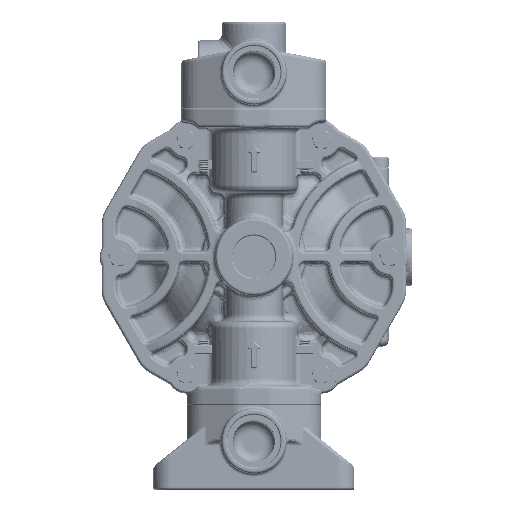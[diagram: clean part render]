
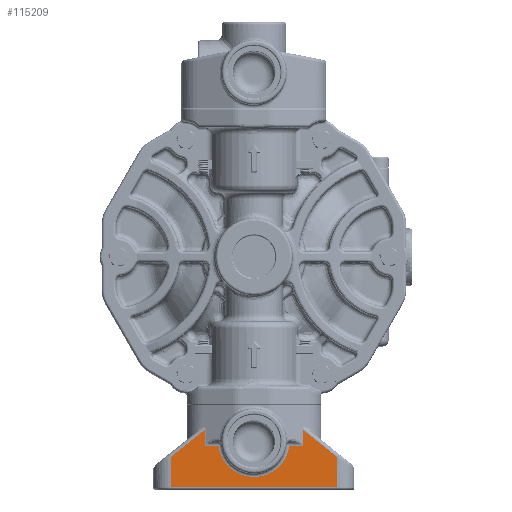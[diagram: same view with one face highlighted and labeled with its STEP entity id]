
A CAD part, top view. The second image highlights one B-rep face of the part: STEP entity #115209.
In plain terms, the highlighted planar face has unit normal (0, 0, 1).
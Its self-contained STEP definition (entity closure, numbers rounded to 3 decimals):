
#91 = CARTESIAN_POINT ( 'NONE',  ( -28.157, -105.5, 60.24 ) ) ;
#327 = VECTOR ( 'NONE', #42722, 1000. ) ;
#8495 = EDGE_LOOP ( 'NONE', ( #81012, #91737, #312683, #146596, #325773, #16565, #406281, #127624, #304091, #134650 ) ) ;
#9005 = DIRECTION ( 'NONE',  ( -1., 0., 0. ) ) ;
#13810 = EDGE_CURVE ( 'NONE', #327331, #208451, #221711, .T. ) ;
#16565 = ORIENTED_EDGE ( 'NONE', *, *, #400352, .T. ) ;
#33902 = CARTESIAN_POINT ( 'NONE',  ( 20.347, -108., 60.24 ) ) ;
#38365 = CARTESIAN_POINT ( 'NONE',  ( 47.5, -120., 60.24 ) ) ;
#39279 = VERTEX_POINT ( 'NONE', #378597 ) ;
#42722 = DIRECTION ( 'NONE',  ( 0., -1., 0. ) ) ;
#46762 = EDGE_CURVE ( 'NONE', #39279, #100320, #369145, .T. ) ;
#50657 = CARTESIAN_POINT ( 'NONE',  ( 28.157, -99.022, 60.24 ) ) ;
#56229 = AXIS2_PLACEMENT_3D ( 'NONE', #192403, #350012, #162316 ) ;
#69424 = CARTESIAN_POINT ( 'NONE',  ( 47.5, -132., 60.24 ) ) ;
#70765 = CARTESIAN_POINT ( 'NONE',  ( 18.493, -108., 60.24 ) ) ;
#75390 = CARTESIAN_POINT ( 'NONE',  ( 47.5, -132., 60.24 ) ) ;
#76670 = CARTESIAN_POINT ( 'NONE',  ( 28.157, -105.5, 60.24 ) ) ;
#81012 = ORIENTED_EDGE ( 'NONE', *, *, #81708, .T. ) ;
#81708 = EDGE_CURVE ( 'NONE', #152903, #92816, #111494, .T. ) ;
#90851 = CARTESIAN_POINT ( 'NONE',  ( -28.157, -108., 60.24 ) ) ;
#91737 = ORIENTED_EDGE ( 'NONE', *, *, #175846, .T. ) ;
#92460 = VECTOR ( 'NONE', #251016, 1000. ) ;
#92816 = VERTEX_POINT ( 'NONE', #90851 ) ;
#100320 = VERTEX_POINT ( 'NONE', #33902 ) ;
#111494 = LINE ( 'NONE', #259359, #268367 ) ;
#115209 = ADVANCED_FACE ( 'NONE', ( #243716 ), #160958, .F. ) ;
#116156 = CIRCLE ( 'NONE', #174677, 20.5 ) ;
#125785 = VECTOR ( 'NONE', #403102, 1000. ) ;
#127624 = ORIENTED_EDGE ( 'NONE', *, *, #371778, .T. ) ;
#130398 = DIRECTION ( 'NONE',  ( 1., 0., 0. ) ) ;
#134650 = ORIENTED_EDGE ( 'NONE', *, *, #302217, .T. ) ;
#145538 = VERTEX_POINT ( 'NONE', #177938 ) ;
#146596 = ORIENTED_EDGE ( 'NONE', *, *, #381611, .T. ) ;
#150760 = CARTESIAN_POINT ( 'NONE',  ( 0., -105.5, 60.24 ) ) ;
#152903 = VERTEX_POINT ( 'NONE', #349412 ) ;
#160958 = PLANE ( 'NONE',  #56229 ) ;
#162316 = DIRECTION ( 'NONE',  ( -1., 0., 0. ) ) ;
#173359 = VECTOR ( 'NONE', #357784, 1000. ) ;
#174677 = AXIS2_PLACEMENT_3D ( 'NONE', #150760, #369983, #182220 ) ;
#175846 = EDGE_CURVE ( 'NONE', #92816, #145538, #352475, .T. ) ;
#177938 = CARTESIAN_POINT ( 'NONE',  ( -28.157, -99.022, 60.24 ) ) ;
#182220 = DIRECTION ( 'NONE',  ( 1., 0., 0. ) ) ;
#192403 = CARTESIAN_POINT ( 'NONE',  ( 0., -105.5, 60.24 ) ) ;
#192894 = LINE ( 'NONE', #38365, #349868 ) ;
#194906 = DIRECTION ( 'NONE',  ( 0., 1., 0. ) ) ;
#208451 = VERTEX_POINT ( 'NONE', #50657 ) ;
#209123 = LINE ( 'NONE', #215368, #125785 ) ;
#211891 = VECTOR ( 'NONE', #251223, 1000. ) ;
#215368 = CARTESIAN_POINT ( 'NONE',  ( -14.188, -87.815, 60.24 ) ) ;
#221711 = LINE ( 'NONE', #376058, #211891 ) ;
#232023 = CARTESIAN_POINT ( 'NONE',  ( -47.5, -133., 60.24 ) ) ;
#233309 = LINE ( 'NONE', #75390, #400015 ) ;
#239594 = CARTESIAN_POINT ( 'NONE',  ( -47.5, -114.541, 60.24 ) ) ;
#243716 = FACE_OUTER_BOUND ( 'NONE', #8495, .T. ) ;
#247827 = CARTESIAN_POINT ( 'NONE',  ( 47.5, -114.541, 60.24 ) ) ;
#249428 = EDGE_CURVE ( 'NONE', #145538, #324487, #209123, .T. ) ;
#251016 = DIRECTION ( 'NONE',  ( 0., 1., 0. ) ) ;
#251223 = DIRECTION ( 'NONE',  ( -0.78, 0.626, 0. ) ) ;
#259359 = CARTESIAN_POINT ( 'NONE',  ( -28.157, -108., 60.24 ) ) ;
#268367 = VECTOR ( 'NONE', #290824, 1000. ) ;
#285551 = VECTOR ( 'NONE', #9005, 1000. ) ;
#290824 = DIRECTION ( 'NONE',  ( -1., 0., 0. ) ) ;
#302217 = EDGE_CURVE ( 'NONE', #100320, #152903, #116156, .T. ) ;
#304091 = ORIENTED_EDGE ( 'NONE', *, *, #46762, .T. ) ;
#312683 = ORIENTED_EDGE ( 'NONE', *, *, #249428, .T. ) ;
#324487 = VERTEX_POINT ( 'NONE', #239594 ) ;
#325773 = ORIENTED_EDGE ( 'NONE', *, *, #368748, .T. ) ;
#327331 = VERTEX_POINT ( 'NONE', #247827 ) ;
#334092 = LINE ( 'NONE', #232023, #327 ) ;
#340016 = LINE ( 'NONE', #76670, #173359 ) ;
#348708 = VERTEX_POINT ( 'NONE', #386677 ) ;
#349412 = CARTESIAN_POINT ( 'NONE',  ( -20.347, -108., 60.24 ) ) ;
#349868 = VECTOR ( 'NONE', #194906, 1000. ) ;
#350012 = DIRECTION ( 'NONE',  ( 0., 0., -1. ) ) ;
#352475 = LINE ( 'NONE', #91, #92460 ) ;
#357168 = VERTEX_POINT ( 'NONE', #69424 ) ;
#357784 = DIRECTION ( 'NONE',  ( 0., -1., 0. ) ) ;
#368748 = EDGE_CURVE ( 'NONE', #348708, #357168, #233309, .T. ) ;
#369145 = LINE ( 'NONE', #70765, #285551 ) ;
#369983 = DIRECTION ( 'NONE',  ( 0., 0., -1. ) ) ;
#371778 = EDGE_CURVE ( 'NONE', #208451, #39279, #340016, .T. ) ;
#376058 = CARTESIAN_POINT ( 'NONE',  ( 14.188, -87.815, 60.24 ) ) ;
#378597 = CARTESIAN_POINT ( 'NONE',  ( 28.157, -108., 60.24 ) ) ;
#381611 = EDGE_CURVE ( 'NONE', #324487, #348708, #334092, .T. ) ;
#386677 = CARTESIAN_POINT ( 'NONE',  ( -47.5, -132., 60.24 ) ) ;
#400015 = VECTOR ( 'NONE', #130398, 1000. ) ;
#400352 = EDGE_CURVE ( 'NONE', #357168, #327331, #192894, .T. ) ;
#403102 = DIRECTION ( 'NONE',  ( -0.78, -0.626, 0. ) ) ;
#406281 = ORIENTED_EDGE ( 'NONE', *, *, #13810, .T. ) ;
